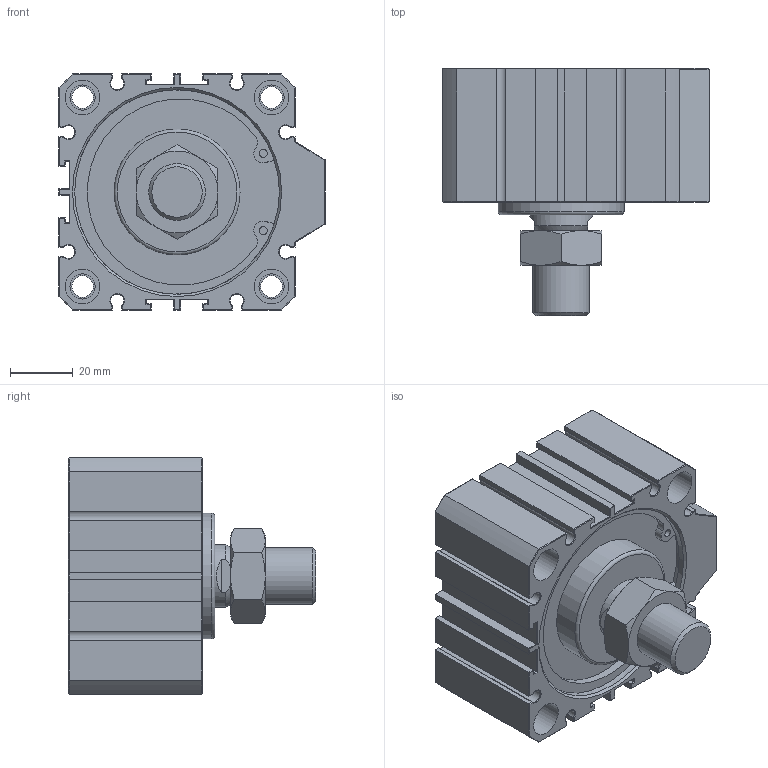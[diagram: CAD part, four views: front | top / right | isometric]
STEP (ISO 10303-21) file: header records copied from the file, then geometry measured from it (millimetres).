
FILE_DESCRIPTION(/* description */ (''),/* implementation_level */ '2;1');
FILE_NAME(/* name */ 'AJC-SD63X10W',/* time_stamp */ '2019-06-18T15:53:19+08:00',/* author */ ('JEFF HUANG'),/* organization */ ('TAIWAN AMAC CLAMP INDUSTRIAL CO., LTD.'),/* preprocessor_version */ 'ST-DEVELOPER v16.7',/* originating_system */ 'DEX',/* authorisation */ $);
FILE_SCHEMA (('AUTOMOTIVE_DESIGN {1 0 10303 214 3 1 1}'));
Length unit declared in the file: millimetre
Products named in the file (1): AJC-SD63X10W
Bounding box: 84.5 x 78.5 x 75 mm (x, y, z)
Volume: 220301.7 mm3; surface area: 41388.2 mm2
Topology: 1 solids, 1 shells, 402 faces, 899 edges, 496 vertices
Faces by surface type: plane 253, cone 75, cylinder 72, torus 2
Full cylindrical faces by diameter (mm): 2.5 x4, 6.8 x4, 8 x8, 11 x8, 12.301 x2, 18 x1, 20 x1, 40 x1, 47 x1, 65 x2
Entity records: 13212 total; most frequent: CARTESIAN_POINT 1859, DIRECTION 1780, ORIENTED_EDGE 1648, EDGE_CURVE 824, AXIS2_PLACEMENT_3D 597, LINE 586, VECTOR 586, VERTEX_POINT 492
